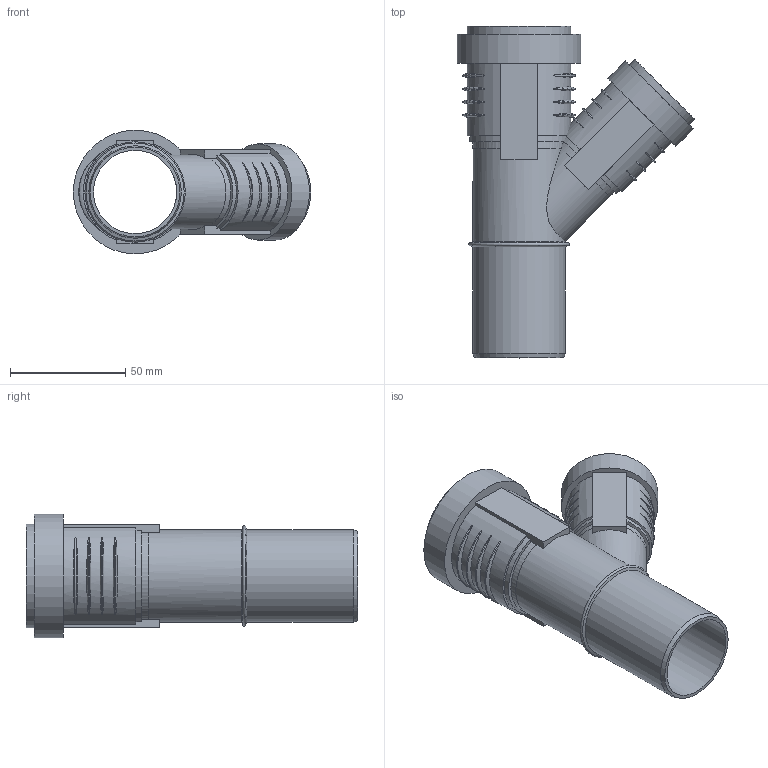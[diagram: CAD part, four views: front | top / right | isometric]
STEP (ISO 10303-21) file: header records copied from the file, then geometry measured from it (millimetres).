
FILE_DESCRIPTION(/* description */ (''),/* implementation_level */ '2;1');
FILE_NAME(/* name */ 'Z:\Geberit\Export\NewStep\390130.stp',/* time_stamp */ '2014-04-02T08:09:09+02:00',/* author */ ('ML'),/* organization */ (''),/* preprocessor_version */ 'ST-DEVELOPER v15.2',/* originating_system */ 'Autodesk Inventor 2014',/* authorisation */ '');
FILE_SCHEMA (('AUTOMOTIVE_DESIGN { 1 0 10303 214 3 1 1 }'));
Length unit declared in the file: millimetre
Products named in the file (4): 861607; 861632; 861400; 390130
Bounding box: 103.16 x 144.2 x 53.7 mm (x, y, z)
Volume: 58396.8 mm3; surface area: 58871.2 mm2
Topology: 3 solids, 3 shells, 129 faces, 322 edges, 224 vertices
Faces by surface type: torus 49, plane 38, cylinder 35, cone 6, bspline 1
Full cylindrical faces by diameter (mm): 28.15 x2, 32.15 x1, 32.8 x2, 36.15 x2, 36.8 x1, 37.8 x1, 40.15 x3, 41 x2, 41.8 x1, 45 x1, 49.7 x1, 53.7 x1
Entity records: 5206 total; most frequent: CARTESIAN_POINT 2148, ORIENTED_EDGE 574, DIRECTION 558, EDGE_CURVE 287, AXIS2_PLACEMENT_3D 243, VERTEX_POINT 214, EDGE_LOOP 187, ADVANCED_FACE 129
